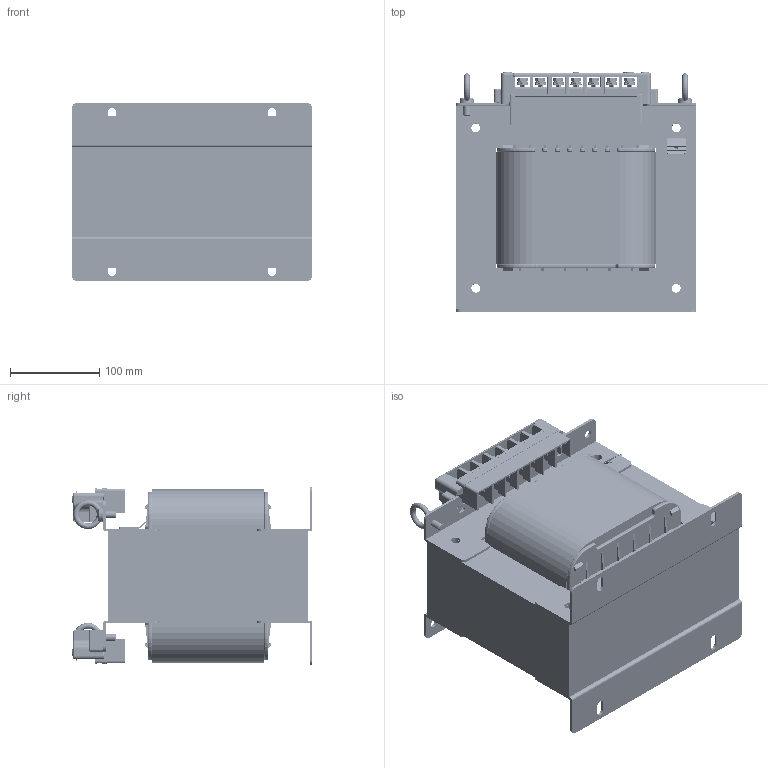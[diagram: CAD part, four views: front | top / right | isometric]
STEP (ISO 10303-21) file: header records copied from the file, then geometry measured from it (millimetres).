
FILE_DESCRIPTION (( 'STEP AP214' ), '1' );
FILE_NAME ('UL TRANS Ass''Y_1P-5kVA_Type A_rev.0.STEP', '2018-10-16T09:50:09', ( 'Registered User' ), ( 'Microsoft Corporation' ), 'SwSTEP 2.0', 'SolidWorks 2018', '' );
FILE_SCHEMA (( 'AUTOMOTIVE_DESIGN' ));
Length unit declared in the file: millimetre
Products named in the file (25): M6(ゎ諦凜); M6(蝶Щ葭諦凜); 180 TERMINAL COVER; 180 欽濠渠 寰瞪 COVER; TRANS 180 欽濠渠_TERMINAL; 180欽濠渠-BODY_REV1; TRANS 270A ANGLE - DN (14.06.16); TRANS 270A ANGLE - UP (厘圈,14.11.28); UL TRANS 1P 5KVA BARRIER_P02-BARRIER 2Â÷ MOCK-UP; eye bolt_ks_KS B 1033 - M8-N-F; TRANS 5KVA 2離 COIL; 21mm 蕾雖欽濠14.10.31; TRANS BARRIER(270-100)_P01; 180 欽濠渠 ASS''Y_REV1; UL TRANS 1P 5KVA 1離 COIL; 152 欽濠渠_PCB ASS''Y; TRANS BOBBIN(270-100)_P04; LED(赤5); TRANS 7.5KVA EI CORE(270x100)_P00; 152 欽濠渠_LED PCB; spring lock washer_ks_KS 1324 - M5; UL TRANS Ass''Y_1P-5kVA_Type A_rev.0; conical spring washer (class 1)_ks_KS 1329 C1 - M5 x 1L; M6x12(HEX)
Assembly tree (56 placements, depth 4):
  UL TRANS Ass''Y_1P-5kVA_Type A_rev.0
    TRANS 7.5KVA EI CORE(270x100)_P00
    TRANS BOBBIN(270-100)_P04
    UL TRANS 1P 5KVA 1離 COIL
    TRANS BARRIER(270-100)_P01  x2
    TRANS 5KVA 2離 COIL
    UL TRANS 1P 5KVA BARRIER_P02-BARRIER 2Â÷ MOCK-UP  x4
    TRANS 270A ANGLE - UP (厘圈,14.11.28)  x2
    TRANS 270A ANGLE - DN (14.06.16)  x2
    180 欽濠渠 ASS''Y_REV1  x2
      180欽濠渠-BODY_REV1
      TRANS 180 欽濠渠_TERMINAL
      180 欽濠渠 寰瞪 COVER
      180 TERMINAL COVER
      M6x12(HEX)
        M6(蝶Щ葭諦凜)
        M6(ゎ諦凜)
        M6x12(HEX)
      conical spring washer (class 1)_ks_KS 1329 C1 - M5 x 1L
      spring lock washer_ks_KS 1324 - M5
      152 欽濠渠_PCB ASS''Y
        152 欽濠渠_LED PCB
        LED(赤5)
    21mm 蕾雖欽濠14.10.31
    eye bolt_ks_KS B 1033 - M8-N-F  x2
Bounding box: 270 x 270.1 x 200 mm (x, y, z)
Volume: 8376774.4 mm3; surface area: 1422062.7 mm2
Topology: 111 solids, 111 shells, 11237 faces, 30665 edges, 19710 vertices
Faces by surface type: plane 6686, cylinder 2519, bspline 1240, torus 334, sphere 238, cone 220
Entity records: 163980 total; most frequent: CARTESIAN_POINT 50365, ORIENTED_EDGE 24704, DIRECTION 21266, EDGE_CURVE 12352, VECTOR 8802, LINE 8802, VERTEX_POINT 7944, AXIS2_PLACEMENT_3D 6232
